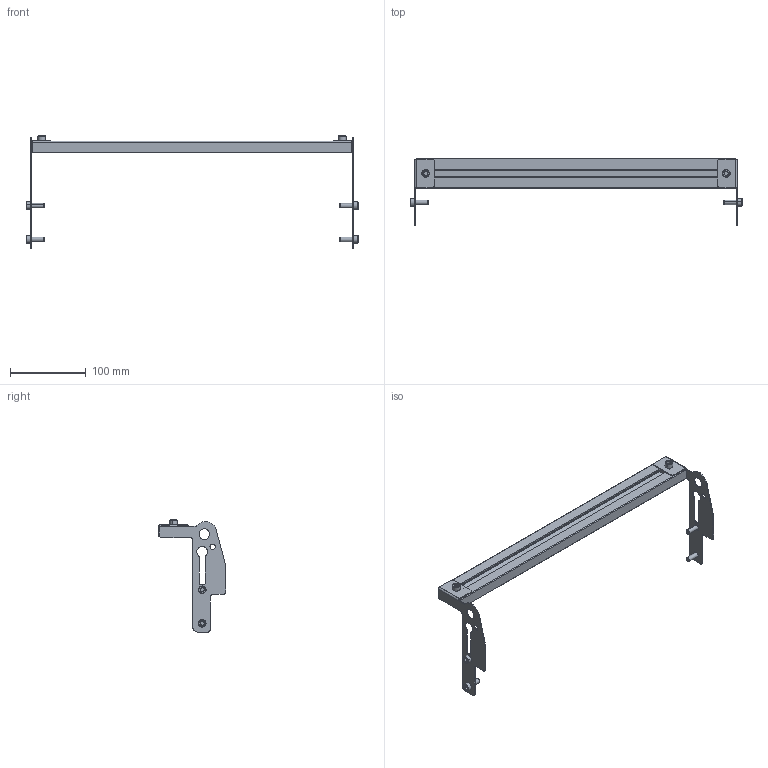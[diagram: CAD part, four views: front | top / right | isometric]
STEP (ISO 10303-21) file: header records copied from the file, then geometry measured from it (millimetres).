
FILE_DESCRIPTION((''),'2;1');
FILE_NAME('207213-16_ASM','2016-08-02T',('adam.dellomodarme'),(''),'PRO/ENGINEER BY PARAMETRIC TECHNOLOGY CORPORATION, 2012420','PRO/ENGINEER BY PARAMETRIC TECHNOLOGY CORPORATION, 2012420','');
FILE_SCHEMA(('CONFIG_CONTROL_DESIGN'));
Length unit declared in the file: inch
Products named in the file (8): 9206XXM_920612M; 834-019; 9206XXM_920618M; 207130-RH; 207216-WW_207216-16; 207130-LH; ASM0001_ASM; 207213-16_ASM
Assembly tree (12 placements, depth 3):
  207213-16_ASM
    ASM0001_ASM
      9206XXM_920612M  x2
      834-019  x2
      9206XXM_920618M  x4
      207130-RH
      207216-WW_207216-16
      207130-LH
Bounding box: 437.75 x 88.64 x 147.81 mm (x, y, z)
Volume: 138603.4 mm3; surface area: 130295.5 mm2
Topology: 11 solids, 11 shells, 344 faces, 843 edges, 533 vertices
Faces by surface type: plane 146, cylinder 132, cone 66
Entity records: 7858 total; most frequent: CARTESIAN_POINT 1457, DIRECTION 1396, ORIENTED_EDGE 1258, EDGE_CURVE 629, AXIS2_PLACEMENT_3D 524, VERTEX_POINT 409, VECTOR 348, LINE 348
